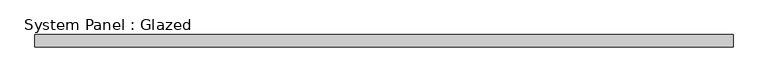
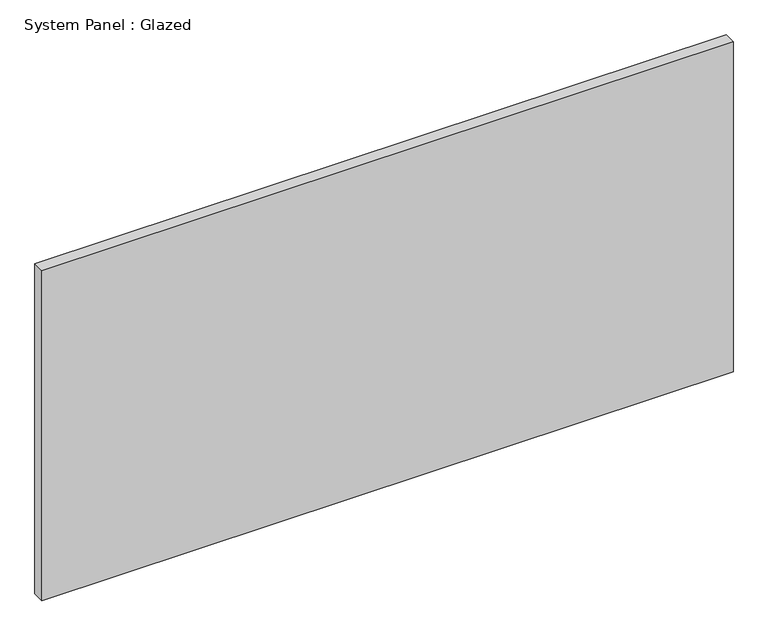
"""IFC4 building model written with IfcOpenShell, lengths in millimetres: plate geometry, System Panel : Glazed."""

from ifc_helpers import new_model, si_unit, origin, origin_with_axes, place, context, project, spatial, polyline, outline, extrude, source, transform, mapped, element, save


def system_panel_glazed_98bceca3(model_context):
    return source(origin(), model_context, "Body", "SweptSolid", [
        extrude(outline(polyline([(718.0555555, 24.5), (-718.0555555, 24.5), (-718.0555555, 49.5), (718.0555555, 49.5), (718.0555555, 24.5)])), origin_with_axes(), (0.0, 0.0, 1.0), 725.0),
    ])


if __name__ == "__main__":
    model = new_model("IFC4")
    model_context = context("Model", 3, world=origin())
    ifc_project = project(units=[si_unit("LENGTHUNIT", "METRE", prefix="MILLI")], contexts=[model_context])
    site = spatial("IfcSite", under=ifc_project)
    building = spatial("IfcBuilding", under=site)
    placement = place(None, origin())
    system_panel_glazed_shape = system_panel_glazed_98bceca3(model_context)
    element("IfcPlate", 1, ObjectType="System Panel : Glazed", at=placement, inside=building, context=model_context, shape_type="MappedRepresentation", body=[
        mapped(system_panel_glazed_shape, transform((0.0, 0.0, 0.0), x_axis=(1.0, 0.0, 0.0), y_axis=(0.0, 1.0, 0.0), z_axis=(0.0, 0.0, 1.0))),
    ])
    save(model, "model.ifc")
